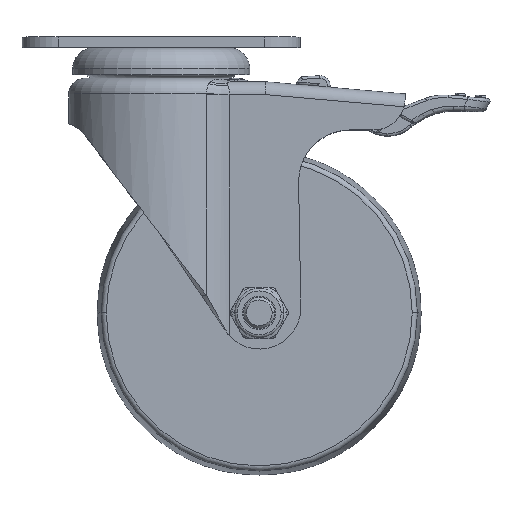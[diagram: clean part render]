
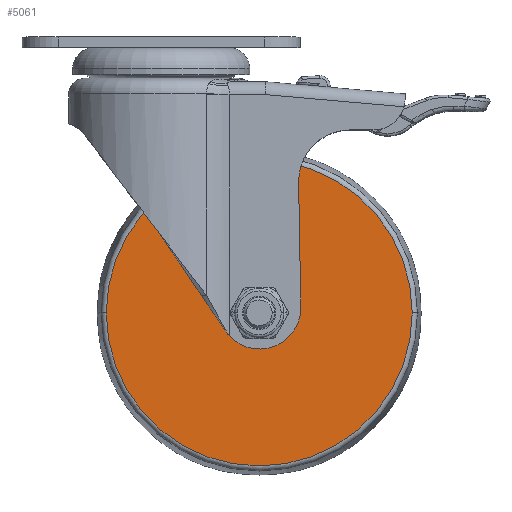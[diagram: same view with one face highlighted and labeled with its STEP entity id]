
A CAD part, top view. The second image highlights one B-rep face of the part: STEP entity #5061.
In plain terms, the highlighted planar face has unit normal (0, 0, 1) as drawn and (1, 0, 0) by its records, which use the part's own axes.
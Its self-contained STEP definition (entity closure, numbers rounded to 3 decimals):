
#4714=CARTESIAN_POINT('',(10.,0.,0.));
#4715=DIRECTION('',(-1.,0.,0.));
#4716=DIRECTION('',(0.,1.,0.));
#4717=AXIS2_PLACEMENT_3D('',#4714,#4715,#4716);
#4719=CARTESIAN_POINT('',(10.,0.,0.));
#4720=DIRECTION('',(1.,0.,0.));
#4721=DIRECTION('',(0.,1.,0.));
#4722=AXIS2_PLACEMENT_3D('',#4719,#4720,#4721);
#4724=CARTESIAN_POINT('',(10.,0.,0.));
#4725=DIRECTION('',(1.,0.,0.));
#4726=DIRECTION('',(0.,1.,0.));
#4727=AXIS2_PLACEMENT_3D('',#4724,#4725,#4726);
#4739=CARTESIAN_POINT('',(10.,0.,0.));
#4740=DIRECTION('',(-1.,0.,0.));
#4741=DIRECTION('',(0.,1.,0.));
#4742=AXIS2_PLACEMENT_3D('',#4739,#4740,#4741);
#4870=CARTESIAN_POINT('',(10.,6.353,0.));
#4871=VERTEX_POINT('',#4870);
#4872=CARTESIAN_POINT('',(10.,29.666,0.));
#4874=VERTEX_POINT('',#4872);
#4898=CARTESIAN_POINT('',(10.,-6.353,0.));
#4899=VERTEX_POINT('',#4898);
#4900=CARTESIAN_POINT('',(10.,-29.666,0.));
#4902=VERTEX_POINT('',#4900);
#5046=CARTESIAN_POINT('',(10.,0.,0.));
#5047=DIRECTION('',(1.,0.,0.));
#5048=DIRECTION('',(0.,-1.,0.));
#5049=AXIS2_PLACEMENT_3D('',#5046,#5047,#5048);
#5050=PLANE('',#5049);
#5052=ORIENTED_EDGE('',*,*,#5051,.F.);
#5054=ORIENTED_EDGE('',*,*,#5053,.T.);
#5055=EDGE_LOOP('',(#5052,#5054));
#5056=FACE_OUTER_BOUND('',#5055,.F.);
#5057=ORIENTED_EDGE('',*,*,#5025,.F.);
#5058=ORIENTED_EDGE('',*,*,#5041,.T.);
#5059=EDGE_LOOP('',(#5057,#5058));
#5060=FACE_BOUND('',#5059,.F.);
#4718=CIRCLE('',#4717,6.353);
#4723=CIRCLE('',#4722,6.353);
#4728=CIRCLE('',#4727,29.666);
#4743=CIRCLE('',#4742,29.666);
#5025=EDGE_CURVE('',#4871,#4899,#4718,.T.);
#5041=EDGE_CURVE('',#4871,#4899,#4723,.T.);
#5051=EDGE_CURVE('',#4874,#4902,#4728,.T.);
#5053=EDGE_CURVE('',#4874,#4902,#4743,.T.);
#5061=ADVANCED_FACE('',(#5056,#5060),#5050,.T.);
